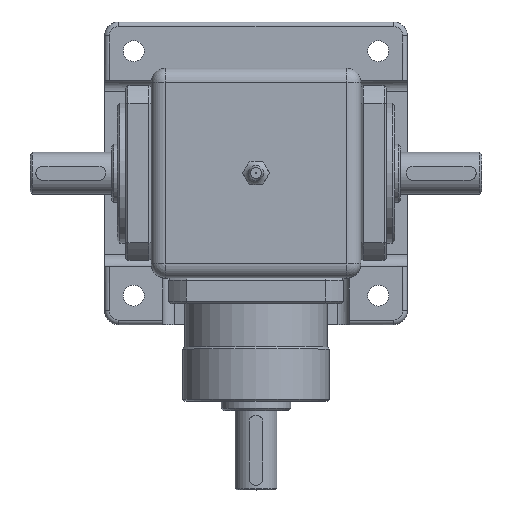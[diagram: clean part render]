
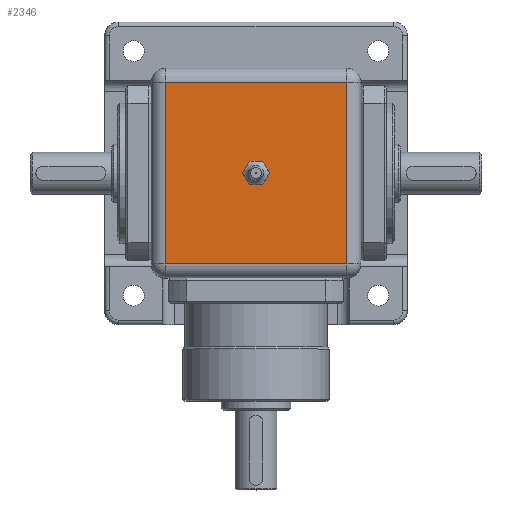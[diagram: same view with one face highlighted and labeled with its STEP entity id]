
A CAD part, top view. The second image highlights one B-rep face of the part: STEP entity #2346.
In plain terms, the highlighted planar face has unit normal (0, 0, 1).
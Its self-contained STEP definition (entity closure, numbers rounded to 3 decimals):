
#2346=ADVANCED_FACE('',(#3040,#3041),#3042,.T.);
#3040=FACE_OUTER_BOUND('',#4334,.T.);
#3041=FACE_BOUND('',#4335,.T.);
#3042=PLANE('',#4336);
#4334=EDGE_LOOP('',(#5634,#5635,#5636,#5637));
#4335=EDGE_LOOP('',(#5638));
#4336=AXIS2_PLACEMENT_3D('',#5639,#5640,#5641);
#5634=ORIENTED_EDGE('',*,*,#8807,.T.);
#5635=ORIENTED_EDGE('',*,*,#8808,.T.);
#5636=ORIENTED_EDGE('',*,*,#8809,.T.);
#5637=ORIENTED_EDGE('',*,*,#8810,.T.);
#5638=ORIENTED_EDGE('',*,*,#8802,.T.);
#5639=CARTESIAN_POINT('',(-5.0,-0.556,90.0));
#5640=DIRECTION('',(0.0,0.0,1.0));
#5641=DIRECTION('',(0.0,-1.0,0.0));
#8802=EDGE_CURVE('',#9663,#9663,#9664,.T.);
#8807=EDGE_CURVE('',#9672,#9673,#9674,.T.);
#8808=EDGE_CURVE('',#9673,#9675,#9676,.T.);
#8809=EDGE_CURVE('',#9675,#9677,#9678,.T.);
#8810=EDGE_CURVE('',#9677,#9672,#9679,.T.);
#9663=VERTEX_POINT('',#11201);
#9664=CIRCLE('',#11202,4.945);
#9672=VERTEX_POINT('',#11210);
#9673=VERTEX_POINT('',#11211);
#9674=LINE('',#11212,#11213);
#9675=VERTEX_POINT('',#11214);
#9676=LINE('',#11215,#11216);
#9677=VERTEX_POINT('',#11217);
#9678=LINE('',#11218,#11219);
#9679=LINE('',#11220,#11221);
#11201=CARTESIAN_POINT('',(44.945,-45.556,90.0));
#11202=AXIS2_PLACEMENT_3D('',#13723,#13724,#13725);
#11210=CARTESIAN_POINT('',(1.,-6.556,90.0));
#11211=CARTESIAN_POINT('',(1.,-84.556,90.0));
#11212=CARTESIAN_POINT('',(1.,-90.556,90.0));
#11213=VECTOR('',#13738,1.0);
#11214=CARTESIAN_POINT('',(79.0,-84.556,90.0));
#11215=CARTESIAN_POINT('',(85.0,-84.556,90.0));
#11216=VECTOR('',#13739,1.0);
#11217=CARTESIAN_POINT('',(79.0,-6.556,90.0));
#11218=CARTESIAN_POINT('',(79.0,-0.556,90.0));
#11219=VECTOR('',#13740,1.0);
#11220=CARTESIAN_POINT('',(-5.0,-6.556,90.0));
#11221=VECTOR('',#13741,1.0);
#13723=CARTESIAN_POINT('',(40.0,-45.556,90.0));
#13724=DIRECTION('',(0.,0.0,-1.0));
#13725=DIRECTION('',(1.0,0.0,0.));
#13738=DIRECTION('',(0.0,-1.0,0.0));
#13739=DIRECTION('',(1.0,0.0,0.0));
#13740=DIRECTION('',(0.0,1.0,0.0));
#13741=DIRECTION('',(-1.0,0.0,0.0));
